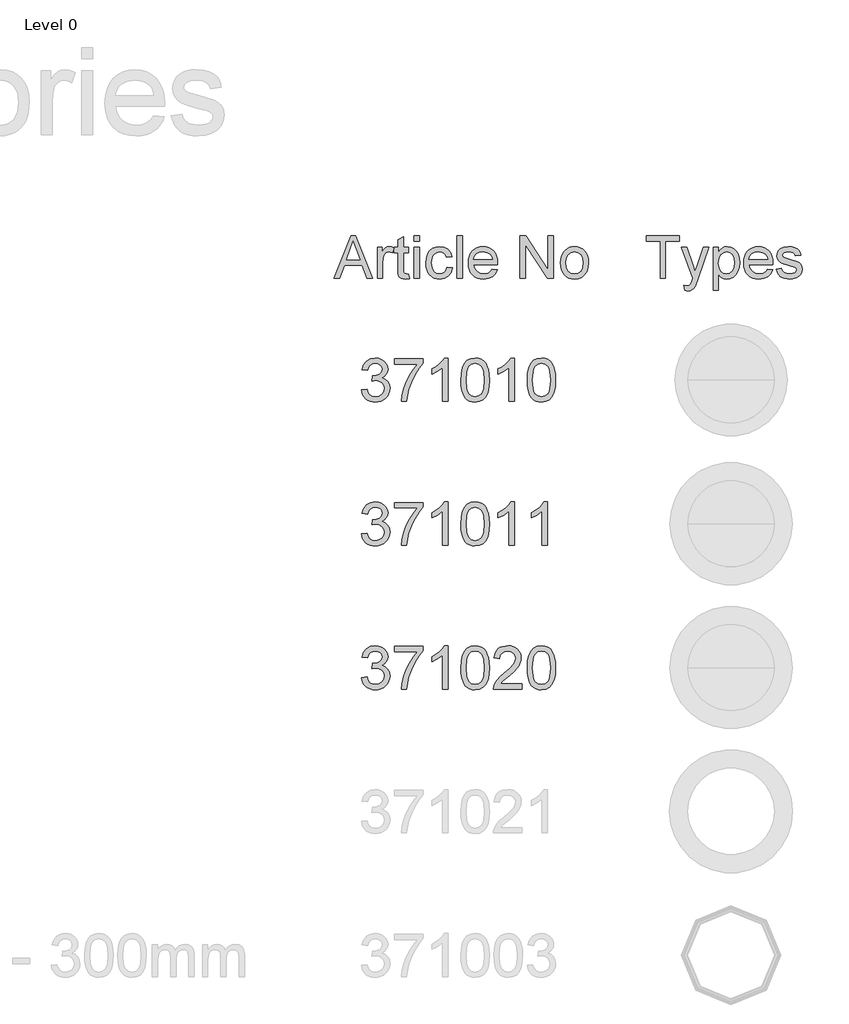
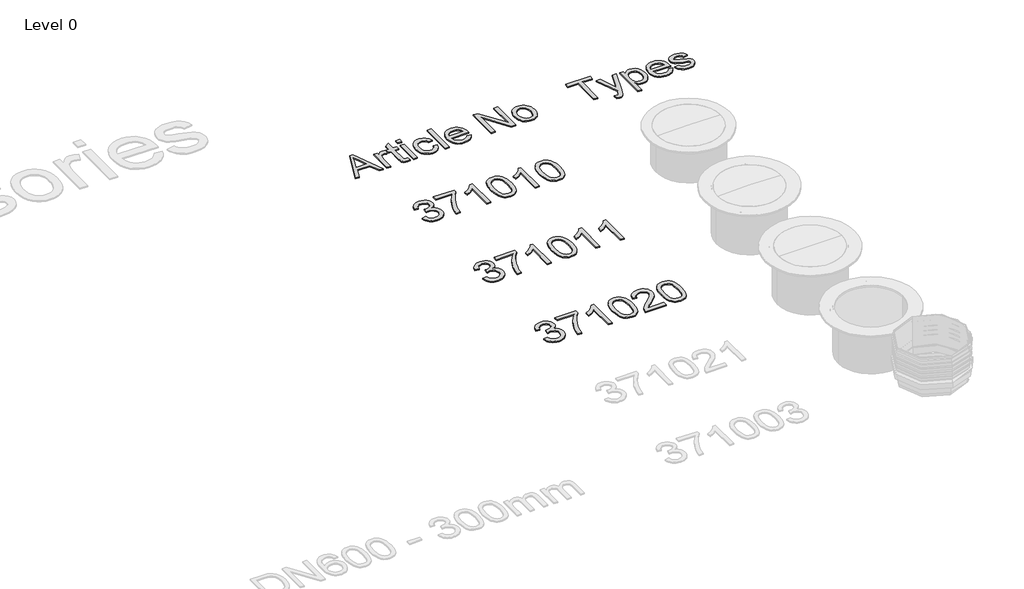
# One storey, part 11 of 19: 5 proxies.
"""IFC4 building model written with IfcOpenShell, lengths in millimetres."""

from ifc_helpers import new_model, si_unit, origin, origin_with_axes, place, context, project, spatial, polyline, outline, extrude, element, save

model = new_model("IFC4")

# Units and contexts
model_context = context("Model", 3, world=origin())
ifc_project = project(units=[si_unit("LENGTHUNIT", "METRE", prefix="MILLI")], contexts=[model_context])

# Site, building, storey
site = spatial("IfcSite", under=ifc_project)
building = spatial("IfcBuilding", under=site)
storey = spatial("IfcBuildingStorey", under=building, Name="Level 0", Elevation=0.0)

# Proxies
placement = place(None, origin())
element("IfcBuildingElementProxy", 1, Name="300mm Arial", ObjectType="300mm Arial", at=placement, inside=storey, context=model_context, shape_type="SweptSolid", body=[
    extrude(outline(polyline([(-4263.9663544, -8345.8973897), (-4263.9663544, -8087.4358512), (-4360.8894313, -8087.4358512), (-4360.8894313, -8050.5127743), (-4130.1202005, -8050.5127743), (-4130.1202005, -8087.4358512), (-4227.0432775, -8087.4358512), (-4227.0432775, -8345.8973897), (-4263.9663544, -8345.8973897)])), origin_with_axes(), (0.0, 0.0, 1.0), 10.0),
    extrude(outline(polyline([(-4093.1971236, -8428.9743127), (-4097.8125082, -8393.4214281), (-4079.0625082, -8396.6666204), (-4061.5384698, -8392.5921012), (-4050.7932775, -8381.2339281), (-4040.6971236, -8354.0464281), (-4037.8125082, -8345.1041204), (-4116.2740467, -8128.9743127), (-4077.331739, -8128.9743127), (-4035.7211621, -8249.407005), (-4021.2259698, -8297.580082), (-4006.7307775, -8255.032005), (-3963.9663544, -8128.9743127), (-3925.3125082, -8128.9743127), (-4000.8173159, -8351.0896974), (-4020.4327005, -8399.2627743), (-4030.4747678, -8414.64138), (-4041.8509698, -8425.2964281), (-4055.066114, -8431.51638), (-4070.6250082, -8433.5896974), (-4093.1971236, -8428.9743127)])), origin_with_axes(), (0.0, 0.0, 1.0), 10.0),
    extrude(outline(polyline([(-3894.7355852, -8428.9743127), (-3894.7355852, -8128.9743127), (-3857.8125082, -8128.9743127), (-3857.8125082, -8165.1762358), (-3845.769239, -8147.3186637), (-3832.2836621, -8134.563255), (-3816.5625082, -8126.9100099), (-3797.8125082, -8124.3589281), (-3772.8425563, -8127.9286397), (-3751.0096236, -8138.6377743), (-3733.2331813, -8155.8372935), (-3720.4327005, -8178.8781589), (-3712.6983255, -8206.0836877), (-3710.1202005, -8235.7771974), (-3713.0318592, -8267.3547214), (-3721.7668352, -8295.5969089), (-3736.0456813, -8319.0704666), (-3755.5889505, -8336.3421012), (-3778.3503688, -8346.970106), (-3802.2836621, -8350.5127743), (-3819.2578207, -8348.141981), (-3834.4110659, -8341.0296012), (-3847.3828207, -8330.2934233), (-3857.8125082, -8317.0512358), (-3857.8125082, -8428.9743127), (-3894.7355852, -8428.9743127)]), holes=[polyline([(-3857.8125082, -8239.1666204), (-3853.8191188, -8272.267582), (-3841.8389505, -8295.4166204), (-3824.1616669, -8309.0464281), (-3803.0769313, -8313.5896974), (-3781.6496477, -8308.8841685), (-3763.5216428, -8294.767582), (-3751.1628688, -8270.7711877), (-3747.0432775, -8236.4262358), (-3751.0637102, -8203.5055627), (-3763.1250082, -8180.032005), (-3780.7752486, -8165.969505), (-3801.5625082, -8161.282005), (-3822.4308977, -8166.266981), (-3840.7572198, -8181.2219089), (-3853.5486861, -8205.6780387), (-3857.8125082, -8239.1666204)])]), origin_with_axes(), (0.0, 0.0, 1.0), 10.0),
    extrude(outline(polyline([(-3516.706739, -8281.282005), (-3480.5048159, -8285.8973897), (-3493.5486861, -8313.1750339), (-3514.362989, -8333.5656589), (-3542.4789746, -8346.2759954), (-3577.4278928, -8350.5127743), (-3600.3380491, -8348.6851), (-3620.7512102, -8343.2020772), (-3638.667376, -8334.0637058), (-3654.0865467, -8321.2699858), (-3666.4858856, -8305.176987), (-3675.3425563, -8286.1407791), (-3680.6565587, -8264.161362), (-3682.4278928, -8239.2387358), (-3680.6385299, -8213.4710074), (-3675.2704409, -8190.7591685), (-3666.323626, -8171.103219), (-3653.7980852, -8154.5031589), (-3638.4194794, -8141.3150579), (-3620.9134698, -8131.8949858), (-3601.2800563, -8126.2429425), (-3579.519239, -8124.3589281), (-3558.4592931, -8126.2384353), (-3539.4140707, -8131.876957), (-3522.3835719, -8141.274493), (-3507.3677967, -8154.4310435), (-3495.1104349, -8170.9950459), (-3486.3551765, -8190.6149377), (-3481.1020215, -8213.290719), (-3479.3509698, -8239.0223897), (-3479.5673159, -8248.9743127), (-3645.5048159, -8248.9743127), (-3639.11359, -8276.6125339), (-3624.2668352, -8296.9310435), (-3602.8395515, -8309.4250339), (-3576.706739, -8313.5896974), (-3557.0552967, -8311.6606108), (-3540.5048159, -8305.8733512), (-3527.0552967, -8295.8673416), (-3516.706739, -8281.282005)]), holes=[polyline([(-3645.5048159, -8212.0512358), (-3516.2740467, -8212.0512358), (-3521.2680371, -8192.5440243), (-3531.0577005, -8178.5896974), (-3552.5841428, -8165.6089281), (-3579.6634698, -8161.282005), (-3604.5522919, -8164.7345291), (-3625.1322198, -8175.0921012), (-3639.4381092, -8191.2369329), (-3645.5048159, -8212.0512358)])]), origin_with_axes(), (0.0, 0.0, 1.0), 10.0),
    extrude(outline(polyline([(-3456.2740467, -8281.282005), (-3419.3509698, -8276.6666204), (-3413.5276525, -8292.4598897), (-3402.2596236, -8304.0704666), (-3385.4747678, -8311.2098897), (-3363.1009698, -8313.5896974), (-3340.9976044, -8311.408207), (-3325.456739, -8304.8637358), (-3316.2620275, -8295.3805627), (-3313.1971236, -8284.3829666), (-3316.2800563, -8274.9719089), (-3325.5288544, -8267.7964281), (-3363.5336621, -8257.267582), (-3419.1346236, -8239.2026781), (-3433.206138, -8230.1251541), (-3443.4014505, -8218.1089281), (-3449.5943592, -8203.9202262), (-3451.6586621, -8188.3252743), (-3450.0000082, -8174.0193849), (-3445.0240467, -8160.813255), (-3437.1814986, -8149.2297214), (-3426.9230852, -8139.7916204), (-3403.4495275, -8128.8661397), (-3371.6827005, -8124.3589281), (-3347.6502486, -8126.1708272), (-3326.7548159, -8131.6065243), (-3309.9519313, -8140.1341685), (-3298.1971236, -8151.2219089), (-3290.4086621, -8165.6900579), (-3285.5048159, -8184.3589281), (-3322.4278928, -8188.9743127), (-3327.0883496, -8177.3547214), (-3336.3101044, -8168.6017166), (-3350.1833015, -8163.1119329), (-3368.7980852, -8161.282005), (-3390.0000082, -8163.0308031), (-3404.1346236, -8168.2771974), (-3412.0853448, -8175.8493127), (-3414.7355852, -8184.5752743), (-3410.3365467, -8195.3204666), (-3396.5625082, -8203.469505), (-3364.7596236, -8211.330082), (-3310.5649121, -8228.7098897), (-3296.2500082, -8237.0211877), (-3285.3966428, -8248.3973897), (-3278.5546957, -8262.8745531), (-3276.2740467, -8280.4887358), (-3278.9513303, -8298.6978704), (-3286.9831813, -8315.8252743), (-3300.0631092, -8330.5277983), (-3317.8846236, -8341.4622935), (-3339.4110659, -8348.2501541), (-3363.6057775, -8350.5127743), (-3400.8353448, -8346.1497935), (-3428.0048159, -8333.0608512), (-3446.1418352, -8311.3901781), (-3456.2740467, -8281.282005)])), origin_with_axes(), (0.0, 0.0, 1.0), 10.0),
])
element("IfcBuildingElementProxy", 2, Name="300mm Arial", ObjectType="300mm Arial", at=placement, inside=storey, context=model_context, shape_type="SweptSolid", body=[
    extrude(outline(polyline([(-6342.0538732, -9120.650521), (-6304.3827568, -9115.9416315), (-6295.9490621, -9139.6148379), (-6283.5974241, -9155.5993106), (-6266.7208376, -9164.7043899), (-6244.7122972, -9167.7394164), (-6218.8869812, -9163.5639558), (-6198.947777, -9151.0375738), (-6186.2006659, -9132.3491685), (-6181.9516289, -9109.6876376), (-6186.1638777, -9088.1757379), (-6198.8006242, -9070.7289343), (-6217.930488, -9059.1682426), (-6241.6220885, -9055.3146787), (-6268.0360157, -9059.434957), (-6263.842161, -9021.7638407), (-6257.8088963, -9022.2052991), (-6235.2393359, -9019.5013664), (-6215.0610084, -9011.3895685), (-6200.8239752, -8997.66757), (-6196.0782975, -8978.1330361), (-6199.5179941, -8961.8634549), (-6209.8370841, -8948.6656883), (-6225.5824335, -8939.9192938), (-6245.3009084, -8937.003829), (-6265.0561716, -8939.946885), (-6281.2061912, -8948.7760529), (-6292.9968091, -8963.4913327), (-6299.6738673, -8984.0927244), (-6337.3449836, -8979.3838349), (-6326.2533415, -8945.5570854), (-6306.5164724, -8920.3019864), (-6279.513934, -8904.5750312), (-6246.6252836, -8899.3327127), (-6222.9428802, -8901.9170837), (-6201.1918572, -8909.6701968), (-6182.8529397, -8921.9022731), (-6169.4068528, -8937.923534), (-6161.1570991, -8956.3820131), (-6158.4071812, -8975.9257441), (-6161.0191433, -8994.1359029), (-6168.8550298, -9010.6538045), (-6181.8044761, -9024.7252908), (-6199.7571174, -9035.5962037), (-6176.1758815, -9045.1243474), (-6158.7014868, -9061.3479434), (-6147.8857561, -9083.3840749), (-6144.2805125, -9110.3498252), (-6146.0831343, -9129.4612948), (-6151.4909997, -9147.0644483), (-6160.5041085, -9163.1592856), (-6173.122461, -9177.7458067), (-6188.4953298, -9189.8491243), (-6205.771988, -9198.4943512), (-6224.9524356, -9203.6814873), (-6246.0366724, -9205.4105327), (-6265.0929598, -9203.9344062), (-6282.4569899, -9199.5060267), (-6298.1287629, -9192.1253942), (-6312.1082787, -9181.7925086), (-6323.8299188, -9169.1143754), (-6332.7280646, -9154.6979997), (-6338.802716, -9138.5433816), (-6342.0538732, -9120.650521)])), origin_with_axes(), (0.0, 0.0, 1.0), 10.0),
    extrude(outline(polyline([(-6111.3182858, -8941.7127186), (-6111.3182858, -8904.0416023), (-5913.5449252, -8904.0416023), (-5913.5449252, -8934.5022315), (-5941.7338831, -8970.1775879), (-5969.6469294, -9015.546635), (-5994.267432, -9066.4707002), (-6012.5787583, -9118.811111), (-6021.555079, -9157.9721494), (-6026.5582741, -9200.7016432), (-6064.2293904, -9200.7016432), (-6060.1550973, -9161.8716986), (-6049.2565932, -9115.7209023), (-6031.8281837, -9066.801794), (-6008.1641743, -9019.6669133), (-5980.5362365, -8977.0569813), (-5951.2160415, -8941.7127186), (-6111.3182858, -8941.7127186)])), origin_with_axes(), (0.0, 0.0, 1.0), 10.0),
    extrude(outline(polyline([(-5739.3160123, -9200.7016432), (-5776.9871286, -9200.7016432), (-5776.9871286, -8965.8457775), (-5812.6716821, -8991.2664233), (-5852.3293612, -9010.2859225), (-5852.3293612, -8974.6749453), (-5822.7424517, -8958.580108), (-5797.1102737, -8939.4318502), (-5776.9043551, -8919.0695818), (-5763.5962239, -8899.3327127), (-5739.3160123, -8899.3327127), (-5739.3160123, -9200.7016432)])), origin_with_axes(), (0.0, 0.0, 1.0), 10.0),
    extrude(outline(polyline([(-5649.847111, -9052.4451991), (-5647.078799, -9004.2066725), (-5638.773863, -8965.7354129), (-5625.0150764, -8936.442809), (-5605.8852126, -8915.7402497), (-5581.246316, -8903.434597), (-5550.9604307, -8899.3327127), (-5527.7470768, -8901.7607339), (-5506.9617441, -8909.0447974), (-5489.5793198, -8920.8997947), (-5476.5746913, -8937.0406172), (-5466.752242, -8957.3293093), (-5458.9163555, -8981.627915), (-5453.7844017, -9012.4840174), (-5452.0737504, -9052.4451991), (-5454.8144713, -9100.4078142), (-5463.0366339, -9138.7871034), (-5476.7126471, -9168.1072984), (-5495.8149197, -9188.8926311), (-5520.5089986, -9201.2810573), (-5550.9604307, -9205.4105327), (-5571.7089753, -9203.617108), (-5590.103075, -9198.2368338), (-5606.14273, -9189.2697102), (-5619.8279402, -9176.7157371), (-5632.9613275, -9154.0220165), (-5642.3423183, -9125.7456867), (-5647.9709129, -9091.8867475), (-5649.847111, -9052.4451991)]), holes=[polyline([(-5612.1759947, -9052.3716227), (-5607.7614108, -9111.6282151), (-5602.2431809, -9131.8962138), (-5594.517659, -9145.9240141), (-5574.799184, -9162.2855658), (-5550.9604307, -9167.7394164), (-5527.1216774, -9162.2671717), (-5507.4032025, -9145.8504377), (-5499.6776806, -9131.7996447), (-5494.1594507, -9111.5362446), (-5489.7448667, -9052.3716227), (-5494.0122979, -8994.4486026), (-5499.3465868, -8974.2472825), (-5506.8145913, -8959.8860891), (-5526.496278, -8942.7243941), (-5551.4018891, -8937.003829), (-5574.983125, -8942.0438124), (-5593.9290478, -8957.1637624), (-5601.9120871, -8972.7987472), (-5607.614258, -8993.8783855), (-5612.1759947, -9052.3716227)])]), origin_with_axes(), (0.0, 0.0, 1.0), 10.0),
    extrude(outline(polyline([(-5277.8448375, -9200.7016432), (-5315.5159538, -9200.7016432), (-5315.5159538, -8965.8457775), (-5351.2005073, -8991.2664233), (-5390.8581864, -9010.2859225), (-5390.8581864, -8974.6749453), (-5361.271277, -8958.580108), (-5335.639099, -8939.4318502), (-5315.4331804, -8919.0695818), (-5302.1250492, -8899.3327127), (-5277.8448375, -8899.3327127), (-5277.8448375, -9200.7016432)])), origin_with_axes(), (0.0, 0.0, 1.0), 10.0),
    extrude(outline(polyline([(-5188.3759363, -9052.4451991), (-5185.6076243, -9004.2066725), (-5177.3026882, -8965.7354129), (-5163.5439016, -8936.442809), (-5144.4140379, -8915.7402497), (-5119.7751412, -8903.434597), (-5089.489256, -8899.3327127), (-5066.2759021, -8901.7607339), (-5045.4905694, -8909.0447974), (-5028.1081451, -8920.8997947), (-5015.1035166, -8937.0406172), (-5005.2810673, -8957.3293093), (-4997.4451808, -8981.627915), (-4992.313227, -9012.4840174), (-4990.6025757, -9052.4451991), (-4993.3432965, -9100.4078142), (-5001.5654591, -9138.7871034), (-5015.2414723, -9168.1072984), (-5034.3437449, -9188.8926311), (-5059.0378238, -9201.2810573), (-5089.489256, -9205.4105327), (-5110.2378005, -9203.617108), (-5128.6319003, -9198.2368338), (-5144.6715553, -9189.2697102), (-5158.3567655, -9176.7157371), (-5171.4901527, -9154.0220165), (-5180.8711436, -9125.7456867), (-5186.4997381, -9091.8867475), (-5188.3759363, -9052.4451991)]), holes=[polyline([(-5150.70482, -9052.3716227), (-5146.290236, -9111.6282151), (-5140.7720061, -9131.8962138), (-5133.0464842, -9145.9240141), (-5113.3280093, -9162.2855658), (-5089.489256, -9167.7394164), (-5065.6505027, -9162.2671717), (-5045.9320277, -9145.8504377), (-5038.2065058, -9131.7996447), (-5032.6882759, -9111.5362446), (-5028.273692, -9052.3716227), (-5032.5411231, -8994.4486026), (-5037.8754121, -8974.2472825), (-5045.3434166, -8959.8860891), (-5065.0251033, -8942.7243941), (-5089.9307144, -8937.003829), (-5113.5119503, -8942.0438124), (-5132.457873, -8957.1637624), (-5140.4409123, -8972.7987472), (-5146.1430832, -8993.8783855), (-5150.70482, -9052.3716227)])]), origin_with_axes(), (0.0, 0.0, 1.0), 10.0),
])
element("IfcBuildingElementProxy", 3, Name="300mm Arial", ObjectType="300mm Arial", at=placement, inside=storey, context=model_context, shape_type="SweptSolid", body=[
    extrude(outline(polyline([(-6342.0538732, -10120.650521), (-6304.3827568, -10115.9416315), (-6295.9490621, -10139.6148379), (-6283.5974241, -10155.5993106), (-6266.7208376, -10164.7043899), (-6244.7122972, -10167.7394164), (-6218.8869812, -10163.5639558), (-6198.947777, -10151.0375738), (-6186.2006659, -10132.3491685), (-6181.9516289, -10109.6876376), (-6186.1638777, -10088.1757379), (-6198.8006242, -10070.7289343), (-6217.930488, -10059.1682426), (-6241.6220885, -10055.3146787), (-6268.0360157, -10059.434957), (-6263.842161, -10021.7638407), (-6257.8088963, -10022.2052991), (-6235.2393359, -10019.5013664), (-6215.0610084, -10011.3895685), (-6200.8239752, -9997.66757), (-6196.0782975, -9978.1330361), (-6199.5179941, -9961.8634549), (-6209.8370841, -9948.6656883), (-6225.5824335, -9939.9192938), (-6245.3009084, -9937.003829), (-6265.0561716, -9939.946885), (-6281.2061912, -9948.7760529), (-6292.9968091, -9963.4913327), (-6299.6738673, -9984.0927244), (-6337.3449836, -9979.3838349), (-6326.2533415, -9945.5570854), (-6306.5164724, -9920.3019864), (-6279.513934, -9904.5750312), (-6246.6252836, -9899.3327127), (-6222.9428802, -9901.9170837), (-6201.1918572, -9909.6701968), (-6182.8529397, -9921.9022731), (-6169.4068528, -9937.923534), (-6161.1570991, -9956.3820131), (-6158.4071812, -9975.9257441), (-6161.0191433, -9994.1359029), (-6168.8550298, -10010.6538045), (-6181.8044761, -10024.7252908), (-6199.7571174, -10035.5962037), (-6176.1758815, -10045.1243474), (-6158.7014868, -10061.3479434), (-6147.8857561, -10083.3840749), (-6144.2805125, -10110.3498252), (-6146.0831343, -10129.4612948), (-6151.4909997, -10147.0644483), (-6160.5041085, -10163.1592856), (-6173.122461, -10177.7458067), (-6188.4953298, -10189.8491243), (-6205.771988, -10198.4943512), (-6224.9524356, -10203.6814873), (-6246.0366724, -10205.4105327), (-6265.0929598, -10203.9344062), (-6282.4569899, -10199.5060267), (-6298.1287629, -10192.1253942), (-6312.1082787, -10181.7925086), (-6323.8299188, -10169.1143754), (-6332.7280646, -10154.6979997), (-6338.802716, -10138.5433816), (-6342.0538732, -10120.650521)])), origin_with_axes(), (0.0, 0.0, 1.0), 10.0),
    extrude(outline(polyline([(-6111.3182858, -9941.7127186), (-6111.3182858, -9904.0416023), (-5913.5449252, -9904.0416023), (-5913.5449252, -9934.5022315), (-5941.7338831, -9970.1775879), (-5969.6469294, -10015.546635), (-5994.267432, -10066.4707002), (-6012.5787583, -10118.811111), (-6021.555079, -10157.9721494), (-6026.5582741, -10200.7016432), (-6064.2293904, -10200.7016432), (-6060.1550973, -10161.8716986), (-6049.2565932, -10115.7209023), (-6031.8281837, -10066.801794), (-6008.1641743, -10019.6669133), (-5980.5362365, -9977.0569813), (-5951.2160415, -9941.7127186), (-6111.3182858, -9941.7127186)])), origin_with_axes(), (0.0, 0.0, 1.0), 10.0),
    extrude(outline(polyline([(-5739.3160123, -10200.7016432), (-5776.9871286, -10200.7016432), (-5776.9871286, -9965.8457775), (-5812.6716821, -9991.2664233), (-5852.3293612, -10010.2859225), (-5852.3293612, -9974.6749453), (-5822.7424517, -9958.580108), (-5797.1102737, -9939.4318502), (-5776.9043551, -9919.0695818), (-5763.5962239, -9899.3327127), (-5739.3160123, -9899.3327127), (-5739.3160123, -10200.7016432)])), origin_with_axes(), (0.0, 0.0, 1.0), 10.0),
    extrude(outline(polyline([(-5649.847111, -10052.4451991), (-5647.078799, -10004.2066725), (-5638.773863, -9965.7354129), (-5625.0150764, -9936.442809), (-5605.8852126, -9915.7402497), (-5581.246316, -9903.434597), (-5550.9604307, -9899.3327127), (-5527.7470768, -9901.7607339), (-5506.9617441, -9909.0447974), (-5489.5793198, -9920.8997947), (-5476.5746913, -9937.0406172), (-5466.752242, -9957.3293093), (-5458.9163555, -9981.627915), (-5453.7844017, -10012.4840174), (-5452.0737504, -10052.4451991), (-5454.8144713, -10100.4078142), (-5463.0366339, -10138.7871034), (-5476.7126471, -10168.1072984), (-5495.8149197, -10188.8926311), (-5520.5089986, -10201.2810573), (-5550.9604307, -10205.4105327), (-5571.7089753, -10203.617108), (-5590.103075, -10198.2368338), (-5606.14273, -10189.2697102), (-5619.8279402, -10176.7157371), (-5632.9613275, -10154.0220165), (-5642.3423183, -10125.7456867), (-5647.9709129, -10091.8867475), (-5649.847111, -10052.4451991)]), holes=[polyline([(-5612.1759947, -10052.3716227), (-5607.7614108, -10111.6282151), (-5602.2431809, -10131.8962138), (-5594.517659, -10145.9240141), (-5574.799184, -10162.2855658), (-5550.9604307, -10167.7394164), (-5527.1216774, -10162.2671717), (-5507.4032025, -10145.8504377), (-5499.6776806, -10131.7996447), (-5494.1594507, -10111.5362446), (-5489.7448667, -10052.3716227), (-5494.0122979, -9994.4486026), (-5499.3465868, -9974.2472825), (-5506.8145913, -9959.8860891), (-5526.496278, -9942.7243941), (-5551.4018891, -9937.003829), (-5574.983125, -9942.0438124), (-5593.9290478, -9957.1637624), (-5601.9120871, -9972.7987472), (-5607.614258, -9993.8783855), (-5612.1759947, -10052.3716227)])]), origin_with_axes(), (0.0, 0.0, 1.0), 10.0),
    extrude(outline(polyline([(-5277.8448375, -10200.7016432), (-5315.5159538, -10200.7016432), (-5315.5159538, -9965.8457775), (-5351.2005073, -9991.2664233), (-5390.8581864, -10010.2859225), (-5390.8581864, -9974.6749453), (-5361.271277, -9958.580108), (-5335.639099, -9939.4318502), (-5315.4331804, -9919.0695818), (-5302.1250492, -9899.3327127), (-5277.8448375, -9899.3327127), (-5277.8448375, -10200.7016432)])), origin_with_axes(), (0.0, 0.0, 1.0), 10.0),
    extrude(outline(polyline([(-5047.1092501, -10200.7016432), (-5084.7803664, -10200.7016432), (-5084.7803664, -9965.8457775), (-5120.46492, -9991.2664233), (-5160.1225991, -10010.2859225), (-5160.1225991, -9974.6749453), (-5130.5356896, -9958.580108), (-5104.9035116, -9939.4318502), (-5084.697593, -9919.0695818), (-5071.3894618, -9899.3327127), (-5047.1092501, -9899.3327127), (-5047.1092501, -10200.7016432)])), origin_with_axes(), (0.0, 0.0, 1.0), 10.0),
])
element("IfcBuildingElementProxy", 4, Name="300mm Arial", ObjectType="300mm Arial", at=placement, inside=storey, context=model_context, shape_type="SweptSolid", body=[
    extrude(outline(polyline([(-6342.0538732, -11120.650521), (-6304.3827568, -11115.9416315), (-6295.9490621, -11139.6148379), (-6283.5974241, -11155.5993106), (-6266.7208376, -11164.7043899), (-6244.7122972, -11167.7394164), (-6218.8869812, -11163.5639558), (-6198.947777, -11151.0375738), (-6186.2006659, -11132.3491685), (-6181.9516289, -11109.6876376), (-6186.1638777, -11088.1757379), (-6198.8006242, -11070.7289343), (-6217.930488, -11059.1682426), (-6241.6220885, -11055.3146787), (-6268.0360157, -11059.434957), (-6263.842161, -11021.7638407), (-6257.8088963, -11022.2052991), (-6235.2393359, -11019.5013664), (-6215.0610084, -11011.3895685), (-6200.8239752, -10997.66757), (-6196.0782975, -10978.1330361), (-6199.5179941, -10961.8634549), (-6209.8370841, -10948.6656883), (-6225.5824335, -10939.9192938), (-6245.3009084, -10937.003829), (-6265.0561716, -10939.946885), (-6281.2061912, -10948.7760529), (-6292.9968091, -10963.4913327), (-6299.6738673, -10984.0927244), (-6337.3449836, -10979.3838349), (-6326.2533415, -10945.5570854), (-6306.5164724, -10920.3019864), (-6279.513934, -10904.5750312), (-6246.6252836, -10899.3327127), (-6222.9428802, -10901.9170837), (-6201.1918572, -10909.6701968), (-6182.8529397, -10921.9022731), (-6169.4068528, -10937.923534), (-6161.1570991, -10956.3820131), (-6158.4071812, -10975.9257441), (-6161.0191433, -10994.1359029), (-6168.8550298, -11010.6538045), (-6181.8044761, -11024.7252908), (-6199.7571174, -11035.5962037), (-6176.1758815, -11045.1243474), (-6158.7014868, -11061.3479434), (-6147.8857561, -11083.3840749), (-6144.2805125, -11110.3498252), (-6146.0831343, -11129.4612948), (-6151.4909997, -11147.0644483), (-6160.5041085, -11163.1592856), (-6173.122461, -11177.7458067), (-6188.4953298, -11189.8491243), (-6205.771988, -11198.4943512), (-6224.9524356, -11203.6814873), (-6246.0366724, -11205.4105327), (-6265.0929598, -11203.9344062), (-6282.4569899, -11199.5060267), (-6298.1287629, -11192.1253942), (-6312.1082787, -11181.7925086), (-6323.8299188, -11169.1143754), (-6332.7280646, -11154.6979997), (-6338.802716, -11138.5433816), (-6342.0538732, -11120.650521)])), origin_with_axes(), (0.0, 0.0, 1.0), 10.0),
    extrude(outline(polyline([(-6111.3182858, -10941.7127186), (-6111.3182858, -10904.0416023), (-5913.5449252, -10904.0416023), (-5913.5449252, -10934.5022315), (-5941.7338831, -10970.1775879), (-5969.6469294, -11015.546635), (-5994.267432, -11066.4707002), (-6012.5787583, -11118.811111), (-6021.555079, -11157.9721494), (-6026.5582741, -11200.7016432), (-6064.2293904, -11200.7016432), (-6060.1550973, -11161.8716986), (-6049.2565932, -11115.7209023), (-6031.8281837, -11066.801794), (-6008.1641743, -11019.6669133), (-5980.5362365, -10977.0569813), (-5951.2160415, -10941.7127186), (-6111.3182858, -10941.7127186)])), origin_with_axes(), (0.0, 0.0, 1.0), 10.0),
    extrude(outline(polyline([(-5739.3160123, -11200.7016432), (-5776.9871286, -11200.7016432), (-5776.9871286, -10965.8457775), (-5812.6716821, -10991.2664233), (-5852.3293612, -11010.2859225), (-5852.3293612, -10974.6749453), (-5822.7424517, -10958.580108), (-5797.1102737, -10939.4318502), (-5776.9043551, -10919.0695818), (-5763.5962239, -10899.3327127), (-5739.3160123, -10899.3327127), (-5739.3160123, -11200.7016432)])), origin_with_axes(), (0.0, 0.0, 1.0), 10.0),
    extrude(outline(polyline([(-5649.847111, -11052.4451991), (-5647.078799, -11004.2066725), (-5638.773863, -10965.7354129), (-5625.0150764, -10936.442809), (-5605.8852126, -10915.7402497), (-5581.246316, -10903.434597), (-5550.9604307, -10899.3327127), (-5527.7470768, -10901.7607339), (-5506.9617441, -10909.0447974), (-5489.5793198, -10920.8997947), (-5476.5746913, -10937.0406172), (-5466.752242, -10957.3293093), (-5458.9163555, -10981.627915), (-5453.7844017, -11012.4840174), (-5452.0737504, -11052.4451991), (-5454.8144713, -11100.4078142), (-5463.0366339, -11138.7871034), (-5476.7126471, -11168.1072984), (-5495.8149197, -11188.8926311), (-5520.5089986, -11201.2810573), (-5550.9604307, -11205.4105327), (-5571.7089753, -11203.617108), (-5590.103075, -11198.2368338), (-5606.14273, -11189.2697102), (-5619.8279402, -11176.7157371), (-5632.9613275, -11154.0220165), (-5642.3423183, -11125.7456867), (-5647.9709129, -11091.8867475), (-5649.847111, -11052.4451991)]), holes=[polyline([(-5612.1759947, -11052.3716227), (-5607.7614108, -11111.6282151), (-5602.2431809, -11131.8962138), (-5594.517659, -11145.9240141), (-5574.799184, -11162.2855658), (-5550.9604307, -11167.7394164), (-5527.1216774, -11162.2671717), (-5507.4032025, -11145.8504377), (-5499.6776806, -11131.7996447), (-5494.1594507, -11111.5362446), (-5489.7448667, -11052.3716227), (-5494.0122979, -10994.4486026), (-5499.3465868, -10974.2472825), (-5506.8145913, -10959.8860891), (-5526.496278, -10942.7243941), (-5551.4018891, -10937.003829), (-5574.983125, -10942.0438124), (-5593.9290478, -10957.1637624), (-5601.9120871, -10972.7987472), (-5607.614258, -10993.8783855), (-5612.1759947, -11052.3716227)])]), origin_with_axes(), (0.0, 0.0, 1.0), 10.0),
    extrude(outline(polyline([(-5226.0470526, -11163.0305269), (-5226.0470526, -11200.7016432), (-5423.8204132, -11200.7016432), (-5419.7737112, -11174.7291743), (-5410.4846909, -11154.4312852), (-5396.8914511, -11134.7404014), (-5377.2281585, -11114.1298127), (-5349.7289794, -11091.0728086), (-5309.0780189, -11054.9651908), (-5284.6874426, -11028.3121402), (-5272.4921545, -11006.6806789), (-5268.4270584, -10985.6378288), (-5272.2622282, -10966.7746795), (-5283.7677376, -10951.0937094), (-5301.4536645, -10940.5262991), (-5323.8300869, -10937.003829), (-5347.3285493, -10940.4435257), (-5365.5846934, -10950.7626156), (-5377.3661143, -10967.1517585), (-5381.4404073, -10988.801614), (-5419.1115237, -10984.0927244), (-5409.9788531, -10947.6540128), (-5401.4324945, -10933.1180755), (-5390.232787, -10921.0377504), (-5376.6372481, -10911.5417964), (-5360.903395, -10904.7589722), (-5323.0207465, -10899.3327127), (-5302.8309228, -10900.8410289), (-5284.8621866, -10905.3659774), (-5269.1145379, -10912.9075583), (-5255.5879768, -10923.4657716), (-5244.7239616, -10936.258868), (-5236.9639508, -10950.5050983), (-5232.3079443, -10966.2044624), (-5230.7559421, -10983.3569604), (-5232.4298052, -11001.3739811), (-5237.4513944, -11019.0783022), (-5246.3633358, -11037.0861258), (-5259.7082551, -11056.0136545), (-5280.9810315, -11078.610806), (-5313.6765438, -11107.6274984), (-5357.0130429, -11143.8638749), (-5374.009191, -11163.0305269), (-5226.0470526, -11163.0305269)])), origin_with_axes(), (0.0, 0.0, 1.0), 10.0),
    extrude(outline(polyline([(-5188.3759363, -11052.4451991), (-5185.6076243, -11004.2066725), (-5177.3026882, -10965.7354129), (-5163.5439016, -10936.442809), (-5144.4140379, -10915.7402497), (-5119.7751412, -10903.434597), (-5089.489256, -10899.3327127), (-5066.2759021, -10901.7607339), (-5045.4905694, -10909.0447974), (-5028.1081451, -10920.8997947), (-5015.1035166, -10937.0406172), (-5005.2810673, -10957.3293093), (-4997.4451808, -10981.627915), (-4992.313227, -11012.4840174), (-4990.6025757, -11052.4451991), (-4993.3432965, -11100.4078142), (-5001.5654591, -11138.7871034), (-5015.2414723, -11168.1072984), (-5034.3437449, -11188.8926311), (-5059.0378238, -11201.2810573), (-5089.489256, -11205.4105327), (-5110.2378005, -11203.617108), (-5128.6319003, -11198.2368338), (-5144.6715553, -11189.2697102), (-5158.3567655, -11176.7157371), (-5171.4901527, -11154.0220165), (-5180.8711436, -11125.7456867), (-5186.4997381, -11091.8867475), (-5188.3759363, -11052.4451991)]), holes=[polyline([(-5150.70482, -11052.3716227), (-5146.290236, -11111.6282151), (-5140.7720061, -11131.8962138), (-5133.0464842, -11145.9240141), (-5113.3280093, -11162.2855658), (-5089.489256, -11167.7394164), (-5065.6505027, -11162.2671717), (-5045.9320277, -11145.8504377), (-5038.2065058, -11131.7996447), (-5032.6882759, -11111.5362446), (-5028.273692, -11052.3716227), (-5032.5411231, -10994.4486026), (-5037.8754121, -10974.2472825), (-5045.3434166, -10959.8860891), (-5065.0251033, -10942.7243941), (-5089.9307144, -10937.003829), (-5113.5119503, -10942.0438124), (-5132.457873, -10957.1637624), (-5140.4409123, -10972.7987472), (-5146.1430832, -10993.8783855), (-5150.70482, -11052.3716227)])]), origin_with_axes(), (0.0, 0.0, 1.0), 10.0),
])
element("IfcBuildingElementProxy", 5, Name="300mm Arial", ObjectType="300mm Arial", at=placement, inside=storey, context=model_context, shape_type="SweptSolid", body=[
    extrude(outline(polyline([(-6532.2115467, -8345.8973897), (-6414.3028928, -8050.5127743), (-6382.8605852, -8050.5127743), (-6264.9519313, -8345.8973897), (-6303.9663544, -8345.8973897), (-6337.7884698, -8253.5896974), (-6459.4471236, -8253.5896974), (-6493.1971236, -8345.8973897), (-6532.2115467, -8345.8973897)]), holes=[polyline([(-6445.8894313, -8216.6666204), (-6351.2740467, -8216.6666204), (-6377.8846236, -8144.0464281), (-6398.581739, -8087.4358512), (-6416.9711621, -8137.7002743), (-6445.8894313, -8216.6666204)])]), origin_with_axes(), (0.0, 0.0, 1.0), 10.0),
    extrude(outline(polyline([(-6230.1202005, -8345.8973897), (-6230.1202005, -8128.9743127), (-6197.8125082, -8128.9743127), (-6197.8125082, -8161.0656589), (-6185.8774121, -8142.4598897), (-6174.8798159, -8131.4983512), (-6163.8461621, -8126.1437839), (-6151.8028928, -8124.3589281), (-6133.4134698, -8127.2074858), (-6114.7355852, -8135.7531589), (-6127.0673159, -8168.8541204), (-6140.0480852, -8163.1750339), (-6153.0288544, -8161.282005), (-6164.0534938, -8163.1029185), (-6173.9062582, -8168.5656589), (-6181.8659938, -8177.2555627), (-6187.2115467, -8188.7579666), (-6191.7007294, -8209.3829666), (-6193.1971236, -8231.8829666), (-6193.1971236, -8345.8973897), (-6230.1202005, -8345.8973897)])), origin_with_axes(), (0.0, 0.0, 1.0), 10.0),
    extrude(outline(polyline([(-6013.1971236, -8315.1041204), (-6008.581739, -8346.9791204), (-6036.2019313, -8350.5127743), (-6053.9242871, -8348.9803224), (-6067.1394313, -8344.3829666), (-6076.4783736, -8337.29763), (-6082.5721236, -8328.3012358), (-6085.925489, -8312.8505147), (-6087.0432775, -8286.4021974), (-6087.0432775, -8165.8973897), (-6114.7355852, -8165.8973897), (-6114.7355852, -8128.9743127), (-6087.0432775, -8128.9743127), (-6087.0432775, -8076.2579666), (-6050.1202005, -8054.5512358), (-6050.1202005, -8128.9743127), (-6013.1971236, -8128.9743127), (-6013.1971236, -8165.8973897), (-6050.1202005, -8165.8973897), (-6050.1202005, -8285.3204666), (-6048.1730852, -8304.3589281), (-6041.862989, -8311.1017166), (-6029.2788544, -8313.5896974), (-6013.1971236, -8315.1041204)])), origin_with_axes(), (0.0, 0.0, 1.0), 10.0),
    extrude(outline(polyline([(-5976.2740467, -8087.4358512), (-5976.2740467, -8050.5127743), (-5939.3509698, -8050.5127743), (-5939.3509698, -8087.4358512), (-5976.2740467, -8087.4358512)])), origin_with_axes(), (0.0, 0.0, 1.0), 10.0),
    extrude(outline(polyline([(-5976.2740467, -8345.8973897), (-5976.2740467, -8128.9743127), (-5939.3509698, -8128.9743127), (-5939.3509698, -8345.8973897), (-5976.2740467, -8345.8973897)])), origin_with_axes(), (0.0, 0.0, 1.0), 10.0),
    extrude(outline(polyline([(-5745.5048159, -8267.4358512), (-5708.581739, -8272.0512358), (-5718.8762102, -8304.8907791), (-5738.2211621, -8329.7074858), (-5764.7956813, -8345.3114522), (-5796.7788544, -8350.5127743), (-5817.4872378, -8348.6986216), (-5836.0546957, -8343.2561637), (-5852.4812282, -8334.1854005), (-5866.7668352, -8321.486332), (-5878.3300864, -8305.3978404), (-5886.5895515, -8286.1588079), (-5891.5452306, -8263.7692346), (-5893.1971236, -8238.2291204), (-5890.3756092, -8205.3715483), (-5881.9110659, -8176.8949858), (-5867.6682775, -8153.8991925), (-5847.5120275, -8137.4839281), (-5823.3984457, -8127.6401781), (-5797.2836621, -8124.3589281), (-5766.0847438, -8128.8661397), (-5741.1418352, -8142.3877743), (-5723.2482053, -8164.2026781), (-5713.1971236, -8193.5896974), (-5750.1202005, -8198.205082), (-5756.8179169, -8182.0963079), (-5767.2476044, -8170.548832), (-5780.83234, -8163.5987118), (-5796.9952005, -8161.282005), (-5820.8563784, -8165.8433031), (-5839.7956813, -8179.5271974), (-5852.1544553, -8203.0728704), (-5856.2740467, -8237.219505), (-5852.2445996, -8271.8258752), (-5840.1562582, -8295.4526781), (-5821.5595034, -8309.0554425), (-5798.0048159, -8313.5896974), (-5778.8852246, -8310.7591685), (-5763.2091428, -8302.267582), (-5751.8058977, -8287.8985916), (-5745.5048159, -8267.4358512)])), origin_with_axes(), (0.0, 0.0, 1.0), 10.0),
    extrude(outline(polyline([(-5676.2740467, -8345.8973897), (-5676.2740467, -8050.5127743), (-5639.3509698, -8050.5127743), (-5639.3509698, -8345.8973897), (-5676.2740467, -8345.8973897)])), origin_with_axes(), (0.0, 0.0, 1.0), 10.0),
    extrude(outline(polyline([(-5432.0913544, -8281.282005), (-5395.8894313, -8285.8973897), (-5408.9333015, -8313.1750339), (-5429.7476044, -8333.5656589), (-5457.86359, -8346.2759954), (-5492.8125082, -8350.5127743), (-5515.7226645, -8348.6851), (-5536.1358255, -8343.2020772), (-5554.0519914, -8334.0637058), (-5569.4711621, -8321.2699858), (-5581.870501, -8305.176987), (-5590.7271717, -8286.1407791), (-5596.0411741, -8264.161362), (-5597.8125082, -8239.2387358), (-5596.0231453, -8213.4710074), (-5590.6550563, -8190.7591685), (-5581.7082414, -8171.103219), (-5569.1827005, -8154.5031589), (-5553.8040948, -8141.3150579), (-5536.2980852, -8131.8949858), (-5516.6646717, -8126.2429425), (-5494.9038544, -8124.3589281), (-5473.8439085, -8126.2384353), (-5454.7986861, -8131.876957), (-5437.7681873, -8141.274493), (-5422.7524121, -8154.4310435), (-5410.4950503, -8170.9950459), (-5401.7397919, -8190.6149377), (-5396.4866368, -8213.290719), (-5394.7355852, -8239.0223897), (-5394.9519313, -8248.9743127), (-5560.8894313, -8248.9743127), (-5554.4982053, -8276.6125339), (-5539.6514505, -8296.9310435), (-5518.2241669, -8309.4250339), (-5492.0913544, -8313.5896974), (-5472.4399121, -8311.6606108), (-5455.8894313, -8305.8733512), (-5442.4399121, -8295.8673416), (-5432.0913544, -8281.282005)]), holes=[polyline([(-5560.8894313, -8212.0512358), (-5431.6586621, -8212.0512358), (-5436.6526525, -8192.5440243), (-5446.4423159, -8178.5896974), (-5467.9687582, -8165.6089281), (-5495.0480852, -8161.282005), (-5519.9369073, -8164.7345291), (-5540.5168352, -8175.0921012), (-5554.8227246, -8191.2369329), (-5560.8894313, -8212.0512358)])]), origin_with_axes(), (0.0, 0.0, 1.0), 10.0),
    extrude(outline(polyline([(-5237.8125082, -8345.8973897), (-5237.8125082, -8050.5127743), (-5198.2932775, -8050.5127743), (-5043.9663544, -8284.5271974), (-5043.9663544, -8050.5127743), (-5007.0432775, -8050.5127743), (-5007.0432775, -8345.8973897), (-5046.5625082, -8345.8973897), (-5200.8894313, -8111.8108512), (-5200.8894313, -8345.8973897), (-5237.8125082, -8345.8973897)])), origin_with_axes(), (0.0, 0.0, 1.0), 10.0),
    extrude(outline(polyline([(-4956.2740467, -8237.4358512), (-4954.277352, -8209.3424017), (-4948.2872678, -8185.1341685), (-4938.3037943, -8164.8111517), (-4924.3269313, -8148.3733512), (-4910.2554169, -8137.8670411), (-4894.7235659, -8130.3625339), (-4877.7313784, -8125.8598296), (-4859.2788544, -8124.3589281), (-4838.9085118, -8126.1866024), (-4820.4897919, -8131.6696252), (-4804.0226945, -8140.8079966), (-4789.5072198, -8153.6017166), (-4777.6600142, -8169.6180928), (-4769.1977246, -8188.4244329), (-4764.1203508, -8210.020737), (-4762.4278928, -8234.407005), (-4765.4206813, -8271.7086877), (-4774.3990467, -8300.1041204), (-4789.1015707, -8321.3691445), (-4809.2668352, -8337.2796012), (-4833.2181573, -8347.204481), (-4859.2788544, -8350.5127743), (-4879.9466729, -8348.6918608), (-4898.5366669, -8343.2291204), (-4915.0488364, -8334.1245531), (-4929.4831813, -8321.3781589), (-4941.2041849, -8305.2062839), (-4949.5763303, -8285.8252743), (-4954.5996176, -8263.23513), (-4956.2740467, -8237.4358512)]), holes=[polyline([(-4919.3509698, -8237.3637358), (-4915.0781332, -8270.7802022), (-4902.2596236, -8294.5872935), (-4882.9687582, -8308.8390964), (-4859.2788544, -8313.5896974), (-4835.6971236, -8308.8120531), (-4816.4423159, -8294.4791204), (-4803.6238063, -8270.3565243), (-4799.3509698, -8236.2098897), (-4803.6508496, -8203.766981), (-4816.550489, -8180.2844089), (-4835.83234, -8166.032606), (-4859.2788544, -8161.282005), (-4882.9687582, -8166.0145772), (-4902.2596236, -8180.2122935), (-4915.0781332, -8203.9652983), (-4919.3509698, -8237.3637358)])]), origin_with_axes(), (0.0, 0.0, 1.0), 10.0),
])

save(model, "model.ifc")
